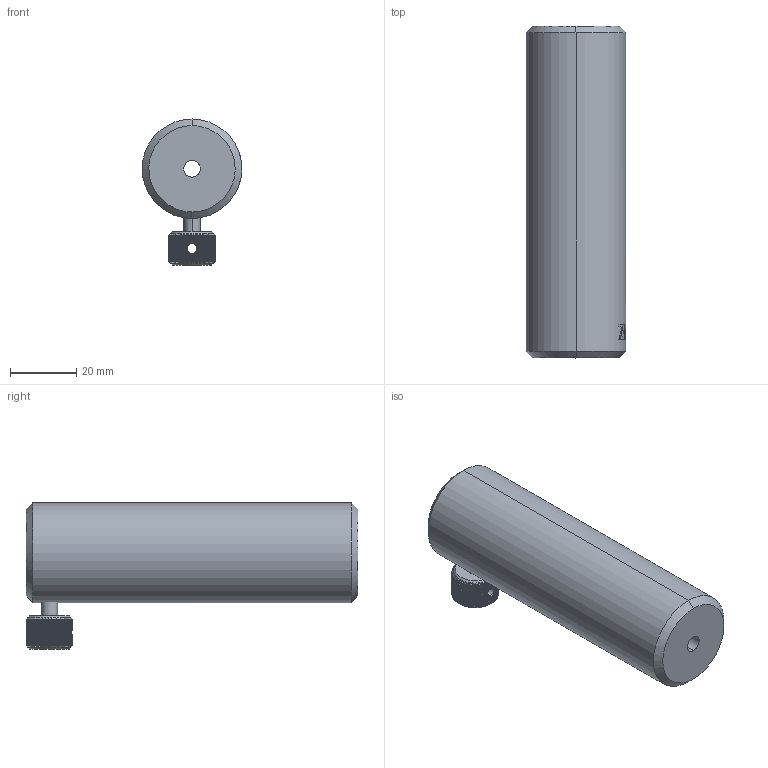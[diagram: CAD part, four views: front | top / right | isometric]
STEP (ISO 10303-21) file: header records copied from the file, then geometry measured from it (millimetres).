
FILE_DESCRIPTION (( 'STEP AP203' ), '1' );
FILE_NAME ('PHSH20-100.STEP', '2019-05-10T02:29:55', ( '' ), ( '' ), 'SwSTEP 2.0', 'SolidWorks 2016', '' );
FILE_SCHEMA (( 'CONFIG_CONTROL_DESIGN' ));
Length unit declared in the file: millimetre
Products named in the file (1): PHSH20-100
Bounding box: 30 x 100 x 44 mm (x, y, z)
Surface area: 14435.1 mm2 (no closed solid volume)
Topology: 0 solids, 2 shells, 346 faces, 1131 edges, 797 vertices
Faces by surface type: plane 212, cylinder 125, cone 8, bspline 1
Entity records: 13691 total; most frequent: CARTESIAN_POINT 4610, ORIENTED_EDGE 2257, DIRECTION 1422, EDGE_CURVE 1131, VERTEX_POINT 797, B_SPLINE_CURVE_WITH_KNOTS 572, AXIS2_PLACEMENT_3D 545, EDGE_LOOP 360
